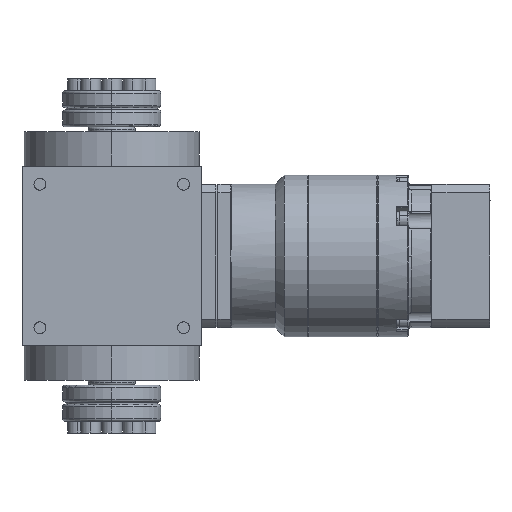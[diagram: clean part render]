
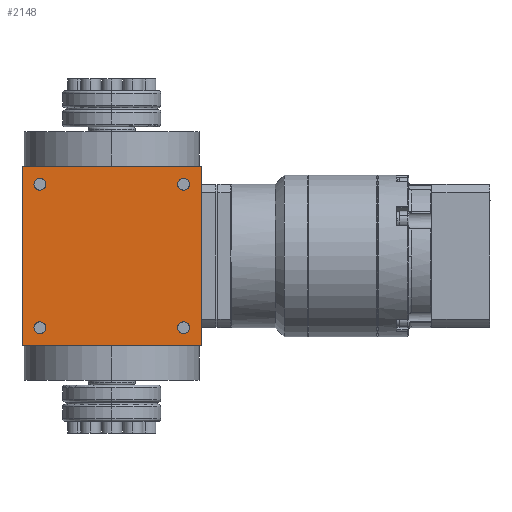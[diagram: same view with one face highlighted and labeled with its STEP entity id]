
A CAD part, left-side view. The second image highlights one B-rep face of the part: STEP entity #2148.
In plain terms, the highlighted planar face has unit normal (-1, 0, 0).
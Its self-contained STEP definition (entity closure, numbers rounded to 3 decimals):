
#916 = CARTESIAN_POINT ( 'NONE',  ( -37.5, -30., -27.5 ) ) ;
#984 = CARTESIAN_POINT ( 'NONE',  ( -37.5, 30., 30. ) ) ;
#1135 = CARTESIAN_POINT ( 'NONE',  ( -37.5, -37.5, -37.5 ) ) ;
#1177 = CARTESIAN_POINT ( 'NONE',  ( -37.5, -30., 30. ) ) ;
#1442 = DIRECTION ( 'NONE',  ( 0., 0., 1. ) ) ;
#2148 = ADVANCED_FACE ( 'NONE', ( #44259, #26441, #23270, #9736, #37043 ), #16701, .T. ) ;
#2592 = EDGE_LOOP ( 'NONE', ( #36532, #38363 ) ) ;
#2737 = EDGE_CURVE ( 'NONE', #39009, #16397, #7523, .T. ) ;
#3374 = CARTESIAN_POINT ( 'NONE',  ( -37.5, -37.5, 37.5 ) ) ;
#3942 = ORIENTED_EDGE ( 'NONE', *, *, #21284, .F. ) ;
#4043 = VERTEX_POINT ( 'NONE', #16985 ) ;
#5224 = AXIS2_PLACEMENT_3D ( 'NONE', #32312, #42458, #8385 ) ;
#5417 = VERTEX_POINT ( 'NONE', #42703 ) ;
#5434 = CIRCLE ( 'NONE', #19242, 2.5 ) ;
#5887 = CARTESIAN_POINT ( 'NONE',  ( -37.5, 37.5, -37.5 ) ) ;
#5905 = DIRECTION ( 'NONE',  ( 0., 0., 1. ) ) ;
#5998 = VECTOR ( 'NONE', #38862, 1000. ) ;
#6204 = ORIENTED_EDGE ( 'NONE', *, *, #18350, .T. ) ;
#7523 = CIRCLE ( 'NONE', #43589, 2.5 ) ;
#7558 = AXIS2_PLACEMENT_3D ( 'NONE', #984, #39586, #38909 ) ;
#7777 = ORIENTED_EDGE ( 'NONE', *, *, #9629, .T. ) ;
#8385 = DIRECTION ( 'NONE',  ( 0., 0., 1. ) ) ;
#8666 = CARTESIAN_POINT ( 'NONE',  ( -37.5, -30., -30. ) ) ;
#8972 = DIRECTION ( 'NONE',  ( 0., -1., 0. ) ) ;
#9629 = EDGE_CURVE ( 'NONE', #16397, #39009, #24689, .T. ) ;
#9660 = VERTEX_POINT ( 'NONE', #916 ) ;
#9736 = FACE_BOUND ( 'NONE', #43252, .T. ) ;
#9889 = VECTOR ( 'NONE', #29378, 1000. ) ;
#10478 = AXIS2_PLACEMENT_3D ( 'NONE', #5887, #23489, #16502 ) ;
#11342 = CARTESIAN_POINT ( 'NONE',  ( -37.5, -37.5, -37.5 ) ) ;
#11561 = DIRECTION ( 'NONE',  ( 0., 0., 1. ) ) ;
#11695 = ORIENTED_EDGE ( 'NONE', *, *, #15397, .F. ) ;
#12259 = CARTESIAN_POINT ( 'NONE',  ( -37.5, 37.5, -37.5 ) ) ;
#13201 = EDGE_LOOP ( 'NONE', ( #11695, #40427, #3942, #15304 ) ) ;
#13474 = ORIENTED_EDGE ( 'NONE', *, *, #42673, .T. ) ;
#14544 = DIRECTION ( 'NONE',  ( 0., 0., 1. ) ) ;
#14936 = EDGE_CURVE ( 'NONE', #9660, #5417, #27553, .T. ) ;
#15004 = DIRECTION ( 'NONE',  ( 1., 0., 0. ) ) ;
#15102 = VERTEX_POINT ( 'NONE', #27133 ) ;
#15304 = ORIENTED_EDGE ( 'NONE', *, *, #42491, .T. ) ;
#15397 = EDGE_CURVE ( 'NONE', #42625, #27213, #42242, .T. ) ;
#15609 = CARTESIAN_POINT ( 'NONE',  ( -37.5, 0., -37.5 ) ) ;
#15748 = CARTESIAN_POINT ( 'NONE',  ( -37.5, 0., 37.5 ) ) ;
#16397 = VERTEX_POINT ( 'NONE', #27406 ) ;
#16502 = DIRECTION ( 'NONE',  ( 0., -1., 0. ) ) ;
#16701 = PLANE ( 'NONE',  #10478 ) ;
#16985 = CARTESIAN_POINT ( 'NONE',  ( -37.5, 37.5, -37.5 ) ) ;
#17151 = DIRECTION ( 'NONE',  ( 1., 0., 0. ) ) ;
#17841 = CARTESIAN_POINT ( 'NONE',  ( -37.5, 30., 32.5 ) ) ;
#18083 = CARTESIAN_POINT ( 'NONE',  ( -37.5, 37.5, 37.5 ) ) ;
#18350 = EDGE_CURVE ( 'NONE', #15102, #31616, #21975, .T. ) ;
#19050 = DIRECTION ( 'NONE',  ( 1., 0., 0. ) ) ;
#19242 = AXIS2_PLACEMENT_3D ( 'NONE', #1177, #38414, #11561 ) ;
#19632 = DIRECTION ( 'NONE',  ( 1., 0., 0. ) ) ;
#19999 = EDGE_CURVE ( 'NONE', #35671, #40346, #5434, .T. ) ;
#21284 = EDGE_CURVE ( 'NONE', #4043, #25154, #39327, .T. ) ;
#21762 = DIRECTION ( 'NONE',  ( 1., 0., 0. ) ) ;
#21975 = CIRCLE ( 'NONE', #42169, 2.5 ) ;
#22126 = CIRCLE ( 'NONE', #40869, 2.5 ) ;
#22434 = CARTESIAN_POINT ( 'NONE',  ( -37.5, 30., -30. ) ) ;
#22793 = DIRECTION ( 'NONE',  ( 0., 0., 1. ) ) ;
#23270 = FACE_BOUND ( 'NONE', #31201, .T. ) ;
#23489 = DIRECTION ( 'NONE',  ( -1., 0., 0. ) ) ;
#24689 = CIRCLE ( 'NONE', #5224, 2.5 ) ;
#24731 = EDGE_CURVE ( 'NONE', #31616, #15102, #42882, .T. ) ;
#25154 = VERTEX_POINT ( 'NONE', #18083 ) ;
#26441 = FACE_BOUND ( 'NONE', #2592, .T. ) ;
#27133 = CARTESIAN_POINT ( 'NONE',  ( -37.5, 30., 27.5 ) ) ;
#27213 = VERTEX_POINT ( 'NONE', #1135 ) ;
#27406 = CARTESIAN_POINT ( 'NONE',  ( -37.5, 30., -32.5 ) ) ;
#27553 = CIRCLE ( 'NONE', #43493, 2.5 ) ;
#27855 = CARTESIAN_POINT ( 'NONE',  ( -37.5, 30., 30. ) ) ;
#29238 = CARTESIAN_POINT ( 'NONE',  ( -37.5, -30., 27.5 ) ) ;
#29378 = DIRECTION ( 'NONE',  ( 0., -1., 0. ) ) ;
#31136 = CARTESIAN_POINT ( 'NONE',  ( -37.5, -30., 30. ) ) ;
#31201 = EDGE_LOOP ( 'NONE', ( #43031, #7777 ) ) ;
#31616 = VERTEX_POINT ( 'NONE', #17841 ) ;
#31817 = CIRCLE ( 'NONE', #33242, 2.5 ) ;
#32245 = ORIENTED_EDGE ( 'NONE', *, *, #24731, .T. ) ;
#32312 = CARTESIAN_POINT ( 'NONE',  ( -37.5, 30., -30. ) ) ;
#32823 = DIRECTION ( 'NONE',  ( 0., 0., 1. ) ) ;
#32906 = LINE ( 'NONE', #15748, #41779 ) ;
#33242 = AXIS2_PLACEMENT_3D ( 'NONE', #43343, #19632, #22793 ) ;
#33306 = CARTESIAN_POINT ( 'NONE',  ( -37.5, -30., 32.5 ) ) ;
#34102 = EDGE_CURVE ( 'NONE', #25154, #42625, #32906, .T. ) ;
#34708 = ORIENTED_EDGE ( 'NONE', *, *, #19999, .T. ) ;
#35402 = EDGE_CURVE ( 'NONE', #5417, #9660, #31817, .T. ) ;
#35671 = VERTEX_POINT ( 'NONE', #29238 ) ;
#36532 = ORIENTED_EDGE ( 'NONE', *, *, #14936, .T. ) ;
#36585 = VECTOR ( 'NONE', #5905, 1000. ) ;
#36595 = LINE ( 'NONE', #15609, #9889 ) ;
#37043 = FACE_OUTER_BOUND ( 'NONE', #13201, .T. ) ;
#38363 = ORIENTED_EDGE ( 'NONE', *, *, #35402, .T. ) ;
#38414 = DIRECTION ( 'NONE',  ( 1., 0., 0. ) ) ;
#38862 = DIRECTION ( 'NONE',  ( 0., 0., -1. ) ) ;
#38909 = DIRECTION ( 'NONE',  ( 0., 0., 1. ) ) ;
#39009 = VERTEX_POINT ( 'NONE', #42046 ) ;
#39327 = LINE ( 'NONE', #12259, #36585 ) ;
#39586 = DIRECTION ( 'NONE',  ( 1., 0., 0. ) ) ;
#40346 = VERTEX_POINT ( 'NONE', #33306 ) ;
#40427 = ORIENTED_EDGE ( 'NONE', *, *, #34102, .F. ) ;
#40825 = EDGE_LOOP ( 'NONE', ( #32245, #6204 ) ) ;
#40869 = AXIS2_PLACEMENT_3D ( 'NONE', #31136, #17151, #44256 ) ;
#41779 = VECTOR ( 'NONE', #8972, 1000. ) ;
#42046 = CARTESIAN_POINT ( 'NONE',  ( -37.5, 30., -27.5 ) ) ;
#42169 = AXIS2_PLACEMENT_3D ( 'NONE', #27855, #15004, #14544 ) ;
#42242 = LINE ( 'NONE', #11342, #5998 ) ;
#42458 = DIRECTION ( 'NONE',  ( 1., 0., 0. ) ) ;
#42491 = EDGE_CURVE ( 'NONE', #4043, #27213, #36595, .T. ) ;
#42625 = VERTEX_POINT ( 'NONE', #3374 ) ;
#42673 = EDGE_CURVE ( 'NONE', #40346, #35671, #22126, .T. ) ;
#42703 = CARTESIAN_POINT ( 'NONE',  ( -37.5, -30., -32.5 ) ) ;
#42882 = CIRCLE ( 'NONE', #7558, 2.5 ) ;
#43031 = ORIENTED_EDGE ( 'NONE', *, *, #2737, .T. ) ;
#43252 = EDGE_LOOP ( 'NONE', ( #13474, #34708 ) ) ;
#43343 = CARTESIAN_POINT ( 'NONE',  ( -37.5, -30., -30. ) ) ;
#43493 = AXIS2_PLACEMENT_3D ( 'NONE', #8666, #19050, #32823 ) ;
#43589 = AXIS2_PLACEMENT_3D ( 'NONE', #22434, #21762, #1442 ) ;
#44256 = DIRECTION ( 'NONE',  ( 0., 0., 1. ) ) ;
#44259 = FACE_BOUND ( 'NONE', #40825, .T. ) ;
